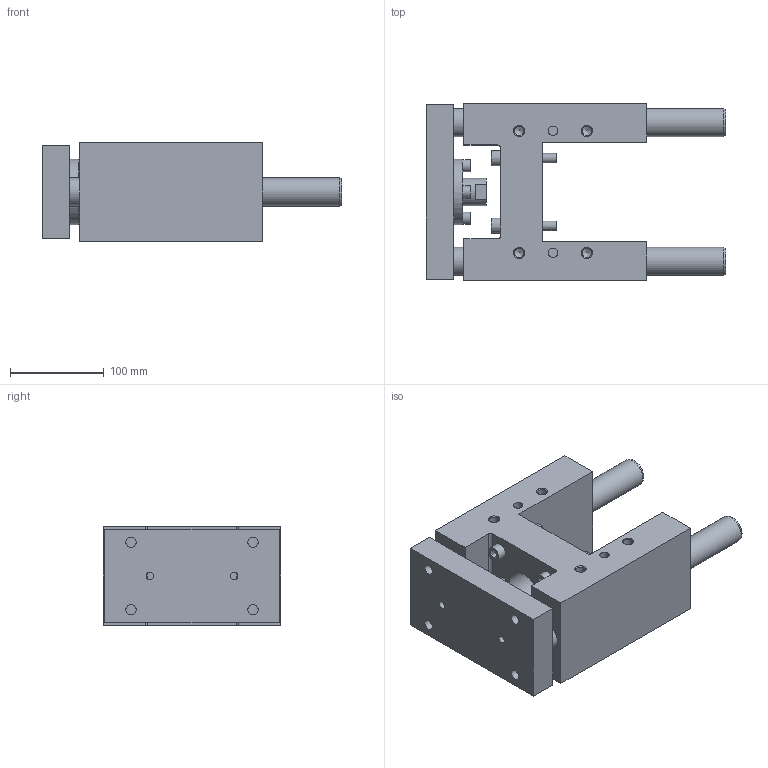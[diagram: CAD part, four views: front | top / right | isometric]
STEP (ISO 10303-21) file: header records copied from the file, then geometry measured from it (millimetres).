
FILE_DESCRIPTION( ( 'STEP AP214' ), '1' );
FILE_NAME( 'U:/Etudes/Top Solid/BIBLIO 3D AVM/TOP/PNEUMATIQUE/GUIDAGES/Type 32 (en H)/R_Renforcée/328R1130.step', '2005-05-27T09:10:03', ( ' ' ), ( ' ' ), 'XStep 1.0', ' ', ' ' );
FILE_SCHEMA( ( 'automotive_design' ) );
Length unit declared in the file: metre
Products named in the file (2): 1; 2
Bounding box: 319 x 189 x 105 mm (x, y, z)
Volume: 2844185.1 mm3; surface area: 341081.9 mm2
Topology: 2 solids, 7 shells, 209 faces, 472 edges, 313 vertices
Faces by surface type: plane 118, cylinder 70, cone 21
Full cylindrical faces by diameter (mm): 8 x10, 8.5 x4, 10 x10, 10.106 x12, 11 x8, 13 x4, 16 x4, 18 x4, 18.376 x2, 29 x1, 30 x4, 32 x1, 42 x1, 45 x2, 70 x1
Entity records: 7075 total; most frequent: CARTESIAN_POINT 1101, DIRECTION 894, ORIENTED_EDGE 690, EDGE_LOOP 362, AXIS2_PLACEMENT_3D 346, EDGE_CURVE 345, VERTEX_POINT 281, FACE_OUTER_BOUND 277
